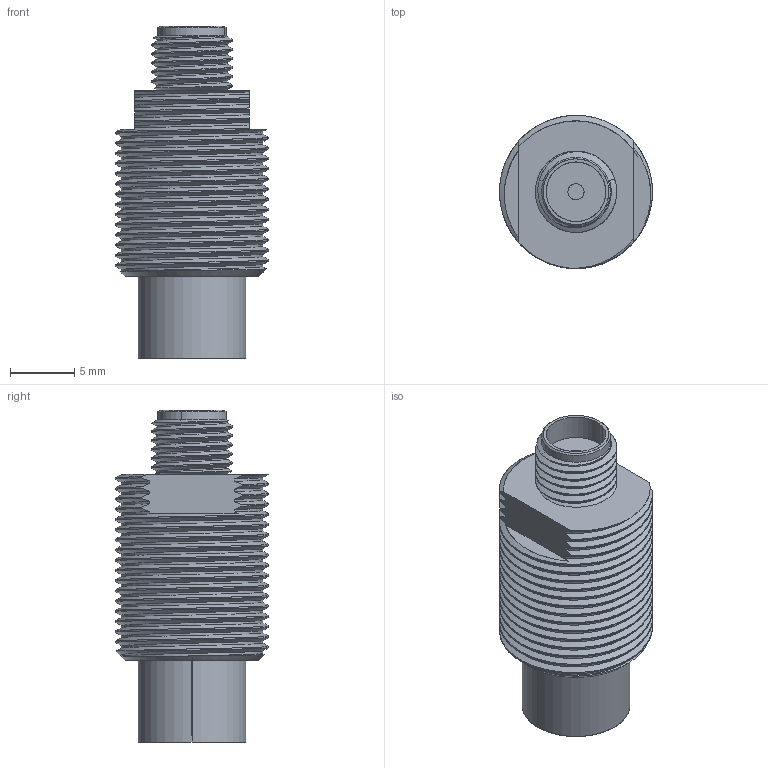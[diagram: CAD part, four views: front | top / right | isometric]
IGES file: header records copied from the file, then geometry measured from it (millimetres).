
Start section: SolidWorks IGES file using analytic representation for surfaces
Global section: file name: C:\Documents and Settings\Administrator\My Documents\EDI\3D\finished sensors\3U1.IGS; native system: SolidWorks 2008; preprocessor: SolidWorks 2008; author: Administrator; date: 100304.193353; units: millimetre
Bounding box: 11.91 x 11.91 x 25.83 mm (x, y, z)
Surface area: 1511.8 mm2 (no closed solid volume)
Topology: 0 solids, 0 shells, 289 faces, 2891 edges, 2891 vertices
Faces by surface type: revolution 186, bspline 103
